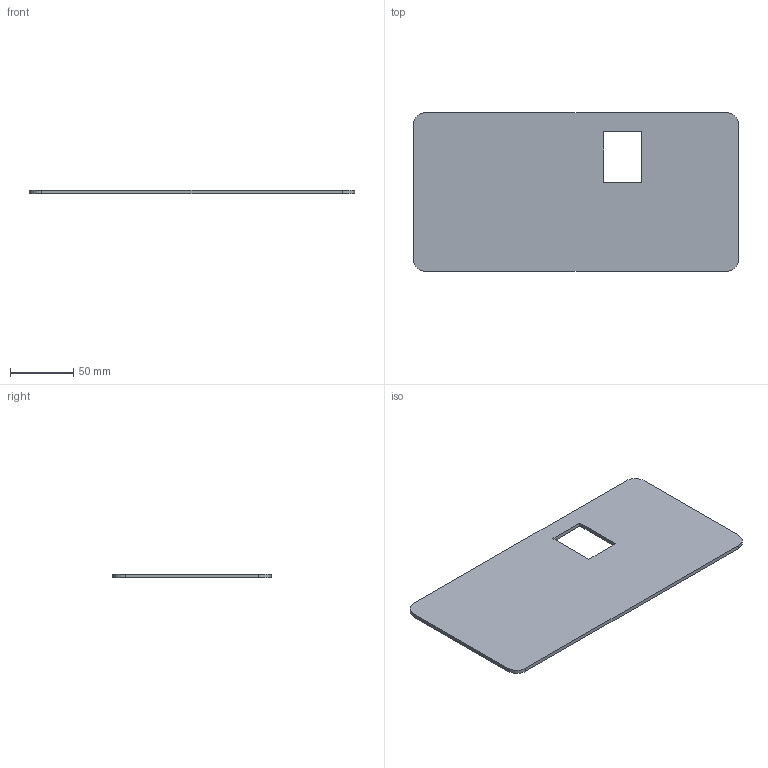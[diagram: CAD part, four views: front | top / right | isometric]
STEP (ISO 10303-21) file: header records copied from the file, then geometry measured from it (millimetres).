
FILE_DESCRIPTION( ( 'Unknown' ), '1' );
FILE_NAME( 'F:/navkite transat/construction/2016/3D ET ASSEMBLAGES/desal/DES 27 EBAUCHE.stp', 'Unknown', ( 'GMA' ), ( 'Unknown' ), 'XStep 1.0', 'Unknown', ' ' );
FILE_SCHEMA( ( 'automotive_design' ) );
Length unit declared in the file: millimetre
Products named in the file (1): 1
Bounding box: 257 x 125 x 3 mm (x, y, z)
Volume: 92517.5 mm3; surface area: 64338.8 mm2
Topology: 1 solids, 1 shells, 14 faces, 36 edges, 24 vertices
Faces by surface type: plane 10, cylinder 4
Entity records: 560 total; most frequent: CARTESIAN_POINT 75, DIRECTION 74, ORIENTED_EDGE 72, EDGE_CURVE 36, LINE 28, VECTOR 28, VERTEX_POINT 24, AXIS2_PLACEMENT_3D 23
